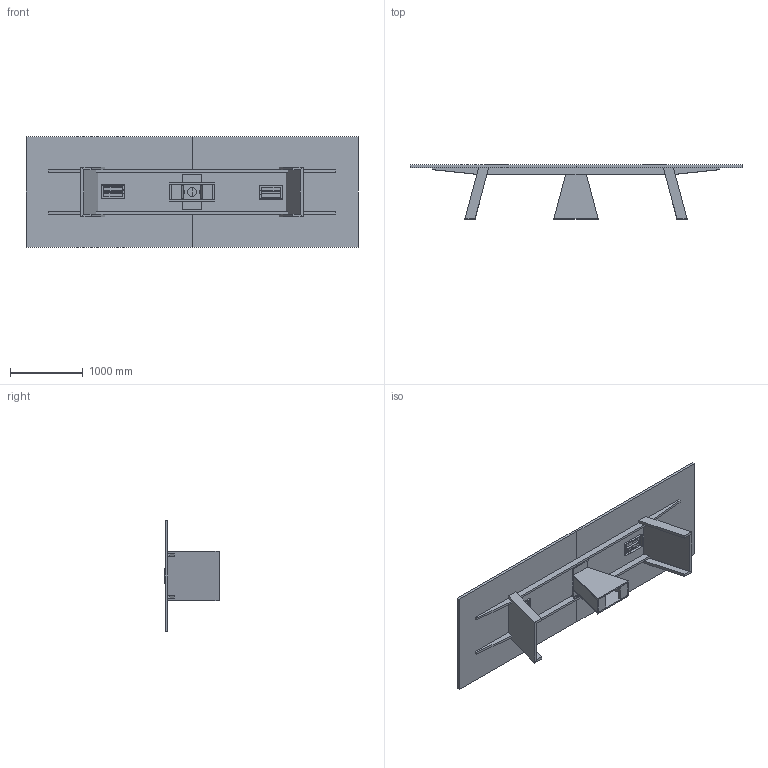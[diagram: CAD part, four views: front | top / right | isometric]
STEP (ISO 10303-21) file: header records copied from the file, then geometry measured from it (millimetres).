
FILE_DESCRIPTION(/* description */ ('','CAx-IF Rec.Pracs.---Representation and Presentation of Product Manufacturing Information (PMI)---4.0---2014-10-13'),/* implementation_level */ '2;1');
FILE_NAME(/* name */ 'TABLE_FOUNDATION 5.stp',/* time_stamp */ '2024-12-07T16:54:41-05:00',/* author */ ('mbowman'),/* organization */ (''),/* preprocessor_version */ 'ST-DEVELOPER v19.2',/* originating_system */ 'Autodesk Inventor 2023',/* authorisation */ '');
FILE_SCHEMA (('AP242_MANAGED_MODEL_BASED_3D_ENGINEERING_MIM_LF { 1 0 10303 442 1 1 4 }'));
Length unit declared in the file: inch
Products named in the file (31): FOUNDATION^TABLE 5_60x180 ANGLE BASES-ASSEMBLY; FOUNDATION^TABLE 5_60x180 ANGLE BASES-LEFT TOP; FOUNDATION^TABLE 5_60x180 ANGLE BASES-RIGHT TOP; FOUNDATION^TABLE 5_60x180 LT END BASE-BACK PANEL; FOUNDATION^TABLE 5_60x180 LT END BASE-RIGHT END; FOUNDATION^TABLE 5_60x180 LT END BASE-LEFT END; FOUNDATION^TABLE 5_60x180 RT END BASE-LEFT END; FOUNDATION^TABLE 5_60x180 RT END BASE-BACK PANEL; FOUNDATION^TABLE 5_60x180 RT END BASE-RIGHT END; FOUNDATION^TABLE 5_60x180 BASE KEELS-KEEL 1; FOUNDATION^TABLE 5_60x180 BASE KEELS-KEEL 2; BYRNE^M2X_7 WINDOW-MOVING MODEL; BYRNE^M2X_7 WINDOW-MOVING MODEL_1; BYRNE^M2X_7 WINDOW-BASE FRAME; BYRNE^M2X_7 WINDOW-POWER FRAME; BYRNE^M2X_7 WINDOW-POWER PLUG (VISUAL ONLY); BYRNE^M2X_7 WINDOW-USB (VISUAL ONLY); FOUNDATION^TABLE 5_MOBILE WIRE TOWER-ASSEMBLY; FOUNDATION^TABLE 5_MOBILE WIRE TOWER-SIDE 1; FOUNDATION^TABLE 5_MOBILE WIRE TOWER-BOTTOM 1; FOUNDATION^TABLE 5_MOBILE WIRE TOWER-BOTTOM 2; FOUNDATION^TABLE 5_MOBILE WIRE TOWER-SIDE 2; FOUNDATION^TABLE 5_MOBILE WIRE TOWER-TOP; FOUNDATION^TABLE 5_MOBILE WIRE TOWER-SOLID 1; FOUNDATION^TABLE 5_MOBILE WIRE TOWER-SOLID 2; FOUNDATION^TABLE 5_MOBILE WIRE TOWER-ACCESS 1; FOUNDATION^TABLE 5_MOBILE WIRE TOWER-ACCESS 2; HL-192; FOUNDATION^TABLE 5_MOBILE WIRE TOWER-BASE BLOCKING; FOUNDATION^TABLE 5_MOBILE WIRE TOWER-DOOR BLOCKING; ROLLER MINI CASTER (88LBS) 661.05.330.stp
Assembly tree (68 placements, depth 3):
  FOUNDATION^TABLE 5_60x180 ANGLE BASES-ASSEMBLY
    FOUNDATION^TABLE 5_60x180 ANGLE BASES-LEFT TOP
    FOUNDATION^TABLE 5_60x180 ANGLE BASES-RIGHT TOP
    FOUNDATION^TABLE 5_60x180 LT END BASE-BACK PANEL
    FOUNDATION^TABLE 5_60x180 LT END BASE-RIGHT END
    FOUNDATION^TABLE 5_60x180 LT END BASE-LEFT END
    FOUNDATION^TABLE 5_60x180 RT END BASE-LEFT END
    FOUNDATION^TABLE 5_60x180 RT END BASE-BACK PANEL
    FOUNDATION^TABLE 5_60x180 RT END BASE-RIGHT END
    FOUNDATION^TABLE 5_60x180 BASE KEELS-KEEL 1
    FOUNDATION^TABLE 5_60x180 BASE KEELS-KEEL 2
    BYRNE^M2X_7 WINDOW-MOVING MODEL
      BYRNE^M2X_7 WINDOW-BASE FRAME
      BYRNE^M2X_7 WINDOW-POWER FRAME  x2
      BYRNE^M2X_7 WINDOW-POWER PLUG (VISUAL ONLY)  x8
      BYRNE^M2X_7 WINDOW-USB (VISUAL ONLY)  x6
    BYRNE^M2X_7 WINDOW-MOVING MODEL_1
      BYRNE^M2X_7 WINDOW-BASE FRAME
      BYRNE^M2X_7 WINDOW-POWER FRAME  x2
      BYRNE^M2X_7 WINDOW-POWER PLUG (VISUAL ONLY)  x8
      BYRNE^M2X_7 WINDOW-USB (VISUAL ONLY)  x6
    FOUNDATION^TABLE 5_MOBILE WIRE TOWER-ASSEMBLY
      FOUNDATION^TABLE 5_MOBILE WIRE TOWER-SIDE 1
      FOUNDATION^TABLE 5_MOBILE WIRE TOWER-BOTTOM 1
      FOUNDATION^TABLE 5_MOBILE WIRE TOWER-BOTTOM 2
      FOUNDATION^TABLE 5_MOBILE WIRE TOWER-SIDE 2
      FOUNDATION^TABLE 5_MOBILE WIRE TOWER-TOP
      FOUNDATION^TABLE 5_MOBILE WIRE TOWER-SOLID 1
      FOUNDATION^TABLE 5_MOBILE WIRE TOWER-SOLID 2
      FOUNDATION^TABLE 5_MOBILE WIRE TOWER-ACCESS 1
      FOUNDATION^TABLE 5_MOBILE WIRE TOWER-ACCESS 2
      HL-192  x4
      FOUNDATION^TABLE 5_MOBILE WIRE TOWER-BASE BLOCKING  x2
      FOUNDATION^TABLE 5_MOBILE WIRE TOWER-DOOR BLOCKING  x2
      ROLLER MINI CASTER (88LBS) 661.05.330.stp  x4
Bounding box: 4572 x 746.63 x 1524 mm (x, y, z)
Volume: 352477666 mm3; surface area: 22714305 mm2
Topology: 105 solids, 105 shells, 7917 faces, 21319 edges, 13854 vertices
Faces by surface type: plane 6402, cylinder 1135, sphere 224, torus 124, cone 24, bspline 8
Full cylindrical faces by diameter (mm): 0 x4, 3.175 x16, 3.8 x4, 4.762 x4, 5 x4, 9 x8, 23 x8, 27 x4, 36 x8, 36.512 x4, 38 x4, 127 x1
Entity records: 36010 total; most frequent: CARTESIAN_POINT 6632, DIRECTION 5974, ORIENTED_EDGE 5140, EDGE_CURVE 2570, LINE 2128, VECTOR 2128, AXIS2_PLACEMENT_3D 1923, VERTEX_POINT 1655
